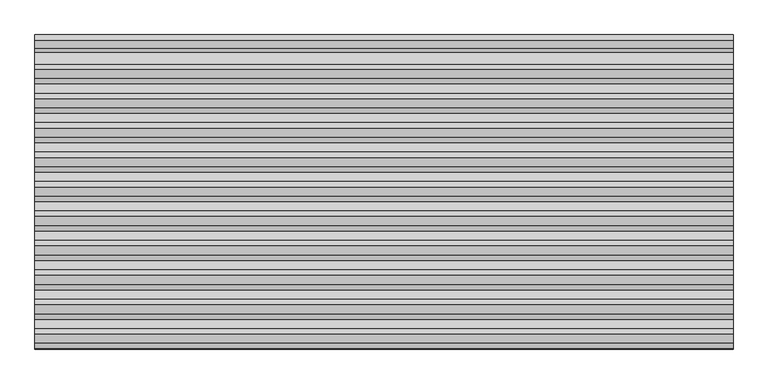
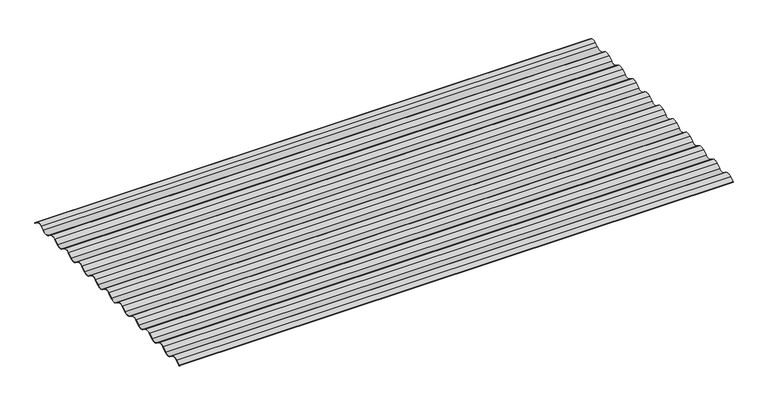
"""IFC4 building model written with IfcOpenShell, lengths in millimetres: beam geometry, 3D_Metalcraft Corrugate : Corrugate."""

import ifcopenshell
import ifcopenshell.guid

model = None  # the IFC model being written
_history = None  # IfcOwnerHistory: only IFC2X3 demands one
_inside = {}  # id of a spatial element -> (the spatial element, [elements in it])
_under = {}  # id of a project, library or spatial element -> (it, [spatial elements below it])
_declared = {}  # id of a project -> (the project, [libraries it declares])
_typed = {}  # id of a type object -> (the type object, [elements of that type])
_made_of = {}  # id of a material, layer set ... -> (it, [elements and type objects made of it])


def new_model(schema):
    """Start an empty IFC model of exactly this schema.

    Asked for "IFC4X3", IfcOpenShell would pick the latest addendum, in which some entities
    have other attributes; the version numbers below select the first issue.
    IFC2X3 requires an IfcOwnerHistory on every rooted entity: one is made here for all.
    """
    global model, _history
    if schema == "IFC4X3":
        model = ifcopenshell.file(schema_version=(4, 3, 0, 0))
    else:
        model = ifcopenshell.file(schema=schema)
    _inside.clear()
    _under.clear()
    _declared.clear()
    _typed.clear()
    _made_of.clear()
    _history = None
    if model.schema == "IFC2X3":
        org = make("IfcOrganization", Name="unknown")
        user = make(
            "IfcPersonAndOrganization",
            ThePerson=make("IfcPerson", FamilyName="unknown"),
            TheOrganization=org,
        )
        app = make(
            "IfcApplication",
            ApplicationDeveloper=org,
            Version="unknown",
            ApplicationFullName="unknown",
            ApplicationIdentifier="unknown",
        )
        _history = make(
            "IfcOwnerHistory",
            OwningUser=user,
            OwningApplication=app,
            ChangeAction="ADDED",
            CreationDate=0,
        )
    return model


def make(cls, **values):
    """One entity of the class cls with the attributes given. An attribute that is None is left unset."""
    return model.create_entity(
        cls, **{name: value for name, value in values.items() if value is not None}
    )


def rooted(cls, **values):
    """An entity with a GlobalId (a new one), such as an element, a storey or a relation."""
    return make(cls, GlobalId=ifcopenshell.guid.new(), OwnerHistory=_history, **values)


def si_unit(unit_type, name, prefix=None):
    """IfcSIUnit, for example si_unit("LENGTHUNIT", "METRE", prefix="MILLI")."""
    return make("IfcSIUnit", UnitType=unit_type, Prefix=prefix, Name=name)


def assignment(units):
    """IfcUnitAssignment: the units of a project."""
    return None if units is None else make("IfcUnitAssignment", Units=units)


def point(xyz):
    """IfcCartesianPoint."""
    return None if xyz is None else make("IfcCartesianPoint", Coordinates=xyz)


def direction(xyz):
    """IfcDirection."""
    return None if xyz is None else make("IfcDirection", DirectionRatios=xyz)


def frame(location, z_axis=None, x_axis=None):
    """IfcAxis2Placement3D, a coordinate frame: its origin and axes. An axis left out is left unset."""
    return make(
        "IfcAxis2Placement3D",
        Location=point(location),
        Axis=direction(z_axis),
        RefDirection=direction(x_axis),
    )


def frame_2d(location, x_axis=None):
    """IfcAxis2Placement2D, a coordinate frame in the plane: its origin and x axis."""
    return make(
        "IfcAxis2Placement2D", Location=point(location), RefDirection=direction(x_axis)
    )


def origin():
    """The frame at (0, 0, 0) with its axes left unset."""
    return frame((0.0, 0.0, 0.0))


def place(relative_to, where):
    """IfcLocalPlacement: puts the frame where relative to a parent placement (None: the world)."""
    return make(
        "IfcLocalPlacement", PlacementRelTo=relative_to, RelativePlacement=where
    )


def context(
    kind, dimensions, precision=None, world=None, true_north=None, identifier=None
):
    """IfcGeometricRepresentationContext, for example the 3D "Model" context."""
    return make(
        "IfcGeometricRepresentationContext",
        ContextIdentifier=identifier,
        ContextType=kind,
        CoordinateSpaceDimension=dimensions,
        Precision=precision,
        WorldCoordinateSystem=world,
        TrueNorth=true_north,
    )


def project(units=None, contexts=None):
    """IfcProject with its units and contexts."""
    return rooted(
        "IfcProject",
        Name="project",
        RepresentationContexts=contexts,
        UnitsInContext=assignment(units),
    )


def spatial(cls, under=None, at=None, **own):
    """A site, building, storey or space (cls), placed at a placement, below another one or the project."""
    s = rooted(cls, ObjectPlacement=at, **own)
    if under is not None:
        _under.setdefault(under.id(), (under, []))[1].append(s)
    return s


def polyline(points):
    """IfcPolyline through the points."""
    return make("IfcPolyline", Points=[point(p) for p in points])


def circle_curve(where, radius):
    """IfcCircle in the frame where."""
    return make("IfcCircle", Position=where, Radius=radius)


def trimmed(basis, trim1, trim2, sense, master):
    """IfcTrimmedCurve: the piece of a basis curve between two trims."""
    return make(
        "IfcTrimmedCurve",
        BasisCurve=basis,
        Trim1=trim1,
        Trim2=trim2,
        SenseAgreement=sense,
        MasterRepresentation=master,
    )


def segment(curve, same_sense, transition):
    """IfcCompositeCurveSegment."""
    return make(
        "IfcCompositeCurveSegment",
        Transition=transition,
        SameSense=same_sense,
        ParentCurve=curve,
    )


def composite_curve(segments, self_intersect=None):
    """IfcCompositeCurve: segments joined end to end."""
    return make("IfcCompositeCurve", Segments=segments, SelfIntersect=self_intersect)


def outline(outer, holes=None, kind="AREA"):
    """IfcArbitraryClosedProfileDef: a profile drawn as a closed curve; with holes, ...WithVoids."""
    if holes is None:
        return make("IfcArbitraryClosedProfileDef", ProfileType=kind, OuterCurve=outer)
    return make(
        "IfcArbitraryProfileDefWithVoids",
        ProfileType=kind,
        OuterCurve=outer,
        InnerCurves=holes,
    )


def extrude(swept, where, along, depth):
    """IfcExtrudedAreaSolid: the profile swept, set in the frame where, extruded along a direction by depth."""
    return make(
        "IfcExtrudedAreaSolid",
        SweptArea=swept,
        Position=where,
        ExtrudedDirection=direction(along),
        Depth=depth,
    )


def shape(context_of_items, identifier, shape_type, items):
    """IfcShapeRepresentation: the items that make up one representation, for example the "Body"."""
    return make(
        "IfcShapeRepresentation",
        ContextOfItems=context_of_items,
        RepresentationIdentifier=identifier,
        RepresentationType=shape_type,
        Items=items,
    )


def source(mapping_origin, context_of_items, identifier, shape_type, items):
    """IfcRepresentationMap: a shape defined once, which mapped items show again and again."""
    return make(
        "IfcRepresentationMap",
        MappingOrigin=mapping_origin,
        MappedRepresentation=shape(context_of_items, identifier, shape_type, items),
    )


def transform(
    local_origin,
    x_axis=None,
    y_axis=None,
    z_axis=None,
    scale=None,
    scale2=None,
    scale3=None,
    uniform=True,
):
    """IfcCartesianTransformationOperator3D, or its non-uniform kind. x_axis, y_axis, z_axis: its Axis1, 2, 3."""
    if uniform:
        return make(
            "IfcCartesianTransformationOperator3D",
            Axis1=direction(x_axis),
            Axis2=direction(y_axis),
            LocalOrigin=point(local_origin),
            Scale=scale,
            Axis3=direction(z_axis),
        )
    return make(
        "IfcCartesianTransformationOperator3DnonUniform",
        Axis1=direction(x_axis),
        Axis2=direction(y_axis),
        LocalOrigin=point(local_origin),
        Scale=scale,
        Axis3=direction(z_axis),
        Scale2=scale2,
        Scale3=scale3,
    )


def mapped(mapping_source, mapping_target):
    """IfcMappedItem: shows the shape of a source again, moved by a transform."""
    return make(
        "IfcMappedItem", MappingSource=mapping_source, MappingTarget=mapping_target
    )


def made_of(thing, what):
    """Note that an element or type object is made of a material, layer set ...; save() writes the relation."""
    if what is not None:
        _made_of.setdefault(what.id(), (what, []))[1].append(thing)
    return thing


def element(
    cls,
    number,
    at=None,
    inside=None,
    cuts=None,
    type_object=None,
    material=None,
    context=None,
    identifier="Body",
    shape_type=None,
    held_by="IfcProductDefinitionShape",
    body=None,
    shapes=None,
    **own,
):
    """One element of the class cls, such as IfcWall. Its Tag is "e" and its number.

    at: its placement. inside: the storey or other place that contains it. cuts: it is an
    opening in that element (IfcRelVoidsElement). A single representation is given by context,
    identifier, shape_type and body (its items); several are given by shapes. held_by: the class
    of the entity that holds the representations. save() writes the other relations.
    """
    e = rooted(cls, Tag="e%d" % number, ObjectPlacement=at, **own)
    if body is not None:
        shapes = [shape(context, identifier, shape_type, body)]
    if shapes is not None:
        e.Representation = make(held_by, Representations=shapes)
    if inside is not None:
        _inside.setdefault(inside.id(), (inside, []))[1].append(e)
    if cuts is not None:
        rooted(
            "IfcRelVoidsElement", RelatingBuildingElement=cuts, RelatedOpeningElement=e
        )
    if type_object is not None:
        _typed.setdefault(type_object.id(), (type_object, []))[1].append(e)
    return made_of(e, material)


def aggregate(whole, parts):
    """IfcRelAggregates: a whole, such as a stair, and the parts it consists of."""
    return rooted("IfcRelAggregates", RelatingObject=whole, RelatedObjects=parts)


def save(model, path):
    """Write the relations noted so far, then the file.

    IfcRelAggregates (storeys below a building ...), IfcRelContainedInSpatialStructure (elements
    in a storey), IfcRelDefinesByType, IfcRelAssociatesMaterial and IfcRelDeclares: one each for
    every whole, place, type object, material and project.
    """
    for whole, parts in _under.values():
        aggregate(whole, parts)
    for where, things in _inside.values():
        rooted(
            "IfcRelContainedInSpatialStructure",
            RelatedElements=things,
            RelatingStructure=where,
        )
    for kind, things in _typed.values():
        rooted("IfcRelDefinesByType", RelatedObjects=things, RelatingType=kind)
    for what, things in _made_of.values():
        rooted("IfcRelAssociatesMaterial", RelatedObjects=things, RelatingMaterial=what)
    for by, libraries in _declared.values():
        rooted("IfcRelDeclares", RelatingContext=by, RelatedDefinitions=libraries)
    model.write(path)


def beam_4e474429(model_context):
    return source(origin(), model_context, "Body", "SweptSolid", [
        extrude(outline(composite_curve([segment(trimmed(circle_curve(frame_2d((-114.0, -3.7896475)), 22.0), [point((-101.5070748, -21.8983973))], [point((-126.4929252, -21.8983973))], False, "CARTESIAN"), True, "CONTINUOUS"), segment(polyline([(-126.4929252, -21.8983973), (-140.8417071, -11.9994114)]), True, "CONTINUOUS"), segment(trimmed(circle_curve(frame_2d((-152.0, -29.7896475)), 21.0), [point((-140.8417071, -11.9994114))], [point((-163.1582929, -11.9994114))], True, "CARTESIAN"), True, "CONTINUOUS"), segment(polyline([(-163.1582929, -11.9994114), (-177.5070748, -21.8983973)]), True, "CONTINUOUS"), segment(trimmed(circle_curve(frame_2d((-190.0, -3.7896475)), 22.0), [point((-177.5070748, -21.8983973))], [point((-202.4929252, -21.8983973))], False, "CARTESIAN"), True, "CONTINUOUS"), segment(polyline([(-202.4929252, -21.8983973), (-216.8417071, -11.9994114)]), True, "CONTINUOUS"), segment(trimmed(circle_curve(frame_2d((-228.0, -29.7896475)), 21.0), [point((-216.8417071, -11.9994114))], [point((-239.1582929, -11.9994114))], True, "CARTESIAN"), True, "CONTINUOUS"), segment(polyline([(-239.1582929, -11.9994114), (-253.5070748, -21.8983973)]), True, "CONTINUOUS"), segment(trimmed(circle_curve(frame_2d((-266.0, -3.7896475)), 22.0), [point((-253.5070748, -21.8983973))], [point((-278.4929252, -21.8983973))], False, "CARTESIAN"), True, "CONTINUOUS"), segment(polyline([(-278.4929252, -21.8983973), (-292.8417071, -11.9994114)]), True, "CONTINUOUS"), segment(trimmed(circle_curve(frame_2d((-304.0, -29.7896475)), 21.0), [point((-292.8417071, -11.9994114))], [point((-315.1582929, -11.9994114))], True, "CARTESIAN"), True, "CONTINUOUS"), segment(polyline([(-315.1582929, -11.9994114), (-329.5070748, -21.8983973)]), True, "CONTINUOUS"), segment(trimmed(circle_curve(frame_2d((-342.0, -3.7896475)), 22.0), [point((-329.5070748, -21.8983973))], [point((-354.4929252, -21.8983973))], False, "CARTESIAN"), True, "CONTINUOUS"), segment(polyline([(-354.4929252, -21.8983973), (-368.8417071, -11.9994114)]), True, "CONTINUOUS"), segment(trimmed(circle_curve(frame_2d((-380.0, -29.7896475)), 21.0), [point((-368.8417071, -11.9994114))], [point((-391.1582929, -11.9994114))], True, "CARTESIAN"), True, "CONTINUOUS"), segment(polyline([(-391.1582929, -11.9994114), (-405.5070748, -21.8983973)]), True, "CONTINUOUS"), segment(trimmed(circle_curve(frame_2d((-418.0, -3.7896475)), 22.0), [point((-405.5070748, -21.8983973))], [point((-430.4929252, -21.8983973))], False, "CARTESIAN"), True, "CONTINUOUS"), segment(polyline([(-430.4929252, -21.8983973), (-444.8417071, -11.9994114)]), True, "CONTINUOUS"), segment(trimmed(circle_curve(frame_2d((-456.0, -29.7896475)), 21.0), [point((-444.8417071, -11.9994114))], [point((-467.1582929, -11.9994114))], True, "CARTESIAN"), True, "CONTINUOUS"), segment(polyline([(-467.1582929, -11.9994114), (-481.5070748, -21.8983973)]), True, "CONTINUOUS"), segment(trimmed(circle_curve(frame_2d((-494.0, -3.7896475)), 22.0), [point((-481.5070748, -21.8983973))], [point((-506.4929252, -21.8983973))], False, "CARTESIAN"), True, "CONTINUOUS"), segment(polyline([(-506.4929252, -21.8983973), (-520.8417071, -11.9994114)]), True, "CONTINUOUS"), segment(trimmed(circle_curve(frame_2d((-532.0, -29.7896475)), 21.0), [point((-520.8417071, -11.9994114))], [point((-543.1582929, -11.9994114))], True, "CARTESIAN"), True, "CONTINUOUS"), segment(polyline([(-543.1582929, -11.9994114), (-557.5070748, -21.8983973)]), True, "CONTINUOUS"), segment(trimmed(circle_curve(frame_2d((-570.0, -3.7896475)), 22.0), [point((-557.5070748, -21.8983973))], [point((-582.4929252, -21.8983973))], False, "CARTESIAN"), True, "CONTINUOUS"), segment(polyline([(-582.4929252, -21.8983973), (-596.8417071, -11.9994114)]), True, "CONTINUOUS"), segment(trimmed(circle_curve(frame_2d((-608.0, -29.7896475)), 21.0), [point((-596.8417071, -11.9994114))], [point((-619.1582929, -11.9994114))], True, "CARTESIAN"), True, "CONTINUOUS"), segment(polyline([(-619.1582929, -11.9994114), (-633.5070748, -21.8983973)]), True, "CONTINUOUS"), segment(trimmed(circle_curve(frame_2d((-646.0, -3.7896475)), 22.0), [point((-633.5070748, -21.8983973))], [point((-658.4929252, -21.8983973))], False, "CARTESIAN"), True, "CONTINUOUS"), segment(polyline([(-658.4929252, -21.8983973), (-672.8417071, -11.9994114)]), True, "CONTINUOUS"), segment(trimmed(circle_curve(frame_2d((-684.0, -29.7896475)), 21.0), [point((-672.8417071, -11.9994114))], [point((-695.1582929, -11.9994114))], True, "CARTESIAN"), True, "CONTINUOUS"), segment(polyline([(-695.1582929, -11.9994114), (-709.5070748, -21.8983973)]), True, "CONTINUOUS"), segment(trimmed(circle_curve(frame_2d((-722.0, -3.7896475)), 22.0), [point((-709.5070748, -21.8983973))], [point((-734.4929252, -21.8983973))], False, "CARTESIAN"), True, "CONTINUOUS"), segment(polyline([(-734.4929252, -21.8983973), (-748.8417071, -11.9994114)]), True, "CONTINUOUS"), segment(trimmed(circle_curve(frame_2d((-760.0, -29.7896475)), 21.0), [point((-748.8417071, -11.9994114))], [point((-771.1582929, -11.9994114))], True, "CARTESIAN"), True, "CONTINUOUS"), segment(polyline([(-771.1582929, -11.9994114), (-785.1206351, -21.631799)]), True, "CONTINUOUS"), segment(trimmed(circle_curve(frame_2d((-785.4045652, -21.2202365)), 0.5), [point((-785.1206351, -21.631799))], [point((-785.6884953, -20.808674))], False, "CARTESIAN"), True, "CONTINUOUS"), segment(polyline([(-785.6884953, -20.808674), (-771.7083687, -11.1640172)]), True, "CONTINUOUS"), segment(trimmed(circle_curve(frame_2d((-760.0, -29.7896475)), 22.0), [point((-771.7083687, -11.1640172))], [point((-748.2916313, -11.1640172))], False, "CARTESIAN"), True, "CONTINUOUS"), segment(polyline([(-748.2916313, -11.1640172), (-733.925065, -21.0752723)]), True, "CONTINUOUS"), segment(trimmed(circle_curve(frame_2d((-722.0, -3.7896475)), 21.0), [point((-733.925065, -21.0752723))], [point((-710.074935, -21.0752723))], True, "CARTESIAN"), True, "CONTINUOUS"), segment(polyline([(-710.074935, -21.0752723), (-695.7083687, -11.1640172)]), True, "CONTINUOUS"), segment(trimmed(circle_curve(frame_2d((-684.0, -29.7896475)), 22.0), [point((-695.7083687, -11.1640172))], [point((-672.2916313, -11.1640172))], False, "CARTESIAN"), True, "CONTINUOUS"), segment(polyline([(-672.2916313, -11.1640172), (-657.925065, -21.0752723)]), True, "CONTINUOUS"), segment(trimmed(circle_curve(frame_2d((-646.0, -3.7896475)), 21.0), [point((-657.925065, -21.0752723))], [point((-634.074935, -21.0752723))], True, "CARTESIAN"), True, "CONTINUOUS"), segment(polyline([(-634.074935, -21.0752723), (-619.7083687, -11.1640172)]), True, "CONTINUOUS"), segment(trimmed(circle_curve(frame_2d((-608.0, -29.7896475)), 22.0), [point((-619.7083687, -11.1640172))], [point((-596.2916313, -11.1640172))], False, "CARTESIAN"), True, "CONTINUOUS"), segment(polyline([(-596.2916313, -11.1640172), (-581.925065, -21.0752723)]), True, "CONTINUOUS"), segment(trimmed(circle_curve(frame_2d((-570.0, -3.7896475)), 21.0), [point((-581.925065, -21.0752723))], [point((-558.074935, -21.0752723))], True, "CARTESIAN"), True, "CONTINUOUS"), segment(polyline([(-558.074935, -21.0752723), (-543.7083687, -11.1640172)]), True, "CONTINUOUS"), segment(trimmed(circle_curve(frame_2d((-532.0, -29.7896475)), 22.0), [point((-543.7083687, -11.1640172))], [point((-520.2916313, -11.1640172))], False, "CARTESIAN"), True, "CONTINUOUS"), segment(polyline([(-520.2916313, -11.1640172), (-505.925065, -21.0752723)]), True, "CONTINUOUS"), segment(trimmed(circle_curve(frame_2d((-494.0, -3.7896475)), 21.0), [point((-505.925065, -21.0752723))], [point((-482.074935, -21.0752723))], True, "CARTESIAN"), True, "CONTINUOUS"), segment(polyline([(-482.074935, -21.0752723), (-467.7083687, -11.1640172)]), True, "CONTINUOUS"), segment(trimmed(circle_curve(frame_2d((-456.0, -29.7896475)), 22.0), [point((-467.7083687, -11.1640172))], [point((-444.2916313, -11.1640172))], False, "CARTESIAN"), True, "CONTINUOUS"), segment(polyline([(-444.2916313, -11.1640172), (-429.925065, -21.0752723)]), True, "CONTINUOUS"), segment(trimmed(circle_curve(frame_2d((-418.0, -3.7896475)), 21.0), [point((-429.925065, -21.0752723))], [point((-406.074935, -21.0752723))], True, "CARTESIAN"), True, "CONTINUOUS"), segment(polyline([(-406.074935, -21.0752723), (-391.7083687, -11.1640172)]), True, "CONTINUOUS"), segment(trimmed(circle_curve(frame_2d((-380.0, -29.7896475)), 22.0), [point((-391.7083687, -11.1640172))], [point((-368.2916313, -11.1640172))], False, "CARTESIAN"), True, "CONTINUOUS"), segment(polyline([(-368.2916313, -11.1640172), (-353.925065, -21.0752723)]), True, "CONTINUOUS"), segment(trimmed(circle_curve(frame_2d((-342.0, -3.7896475)), 21.0), [point((-353.925065, -21.0752723))], [point((-330.074935, -21.0752723))], True, "CARTESIAN"), True, "CONTINUOUS"), segment(polyline([(-330.074935, -21.0752723), (-315.7083687, -11.1640172)]), True, "CONTINUOUS"), segment(trimmed(circle_curve(frame_2d((-304.0, -29.7896475)), 22.0), [point((-315.7083687, -11.1640172))], [point((-292.2916313, -11.1640172))], False, "CARTESIAN"), True, "CONTINUOUS"), segment(polyline([(-292.2916313, -11.1640172), (-277.925065, -21.0752723)]), True, "CONTINUOUS"), segment(trimmed(circle_curve(frame_2d((-266.0, -3.7896475)), 21.0), [point((-277.925065, -21.0752723))], [point((-254.074935, -21.0752723))], True, "CARTESIAN"), True, "CONTINUOUS"), segment(polyline([(-254.074935, -21.0752723), (-239.7083687, -11.1640172)]), True, "CONTINUOUS"), segment(trimmed(circle_curve(frame_2d((-228.0, -29.7896475)), 22.0), [point((-239.7083687, -11.1640172))], [point((-216.2916313, -11.1640172))], False, "CARTESIAN"), True, "CONTINUOUS"), segment(polyline([(-216.2916313, -11.1640172), (-201.925065, -21.0752723)]), True, "CONTINUOUS"), segment(trimmed(circle_curve(frame_2d((-190.0, -3.7896475)), 21.0), [point((-201.925065, -21.0752723))], [point((-178.074935, -21.0752723))], True, "CARTESIAN"), True, "CONTINUOUS"), segment(polyline([(-178.074935, -21.0752723), (-163.7083687, -11.1640172)]), True, "CONTINUOUS"), segment(trimmed(circle_curve(frame_2d((-152.0, -29.7896475)), 22.0), [point((-163.7083687, -11.1640172))], [point((-140.2916313, -11.1640172))], False, "CARTESIAN"), True, "CONTINUOUS"), segment(polyline([(-140.2916313, -11.1640172), (-125.925065, -21.0752723)]), True, "CONTINUOUS"), segment(trimmed(circle_curve(frame_2d((-114.0, -3.7896475)), 21.0), [point((-125.925065, -21.0752723))], [point((-102.074935, -21.0752723))], True, "CARTESIAN"), True, "CONTINUOUS"), segment(polyline([(-102.074935, -21.0752723), (-87.7083687, -11.1640172)]), True, "CONTINUOUS"), segment(trimmed(circle_curve(frame_2d((-76.0, -29.7896475)), 22.0), [point((-87.7083687, -11.1640172))], [point((-64.2916313, -11.1640172))], False, "CARTESIAN"), True, "CONTINUOUS"), segment(polyline([(-64.2916313, -11.1640172), (-51.2411976, -20.1672943)]), True, "CONTINUOUS"), segment(trimmed(circle_curve(frame_2d((-36.2390033, 1.8579031)), 26.6491117), [point((-51.2411976, -20.1672943))], [point((-21.236809, -20.1672943))], True, "CARTESIAN"), True, "CONTINUOUS"), segment(polyline([(-21.236809, -20.1672943), (-10.6086461, -12.8351015)]), True, "CONTINUOUS"), segment(trimmed(circle_curve(frame_2d((0.0, -29.7896475)), 20.0), [point((-10.6086461, -12.8351015))], [point((10.6086461, -12.8351015))], False, "CARTESIAN"), True, "CONTINUOUS"), segment(polyline([(10.6086461, -12.8351015), (24.9392146, -22.7215223)]), True, "CONTINUOUS"), segment(trimmed(circle_curve(frame_2d((24.6552844, -23.1330848)), 0.5), [point((24.9392146, -22.7215223))], [point((24.3713543, -23.5446473))], False, "CARTESIAN"), True, "CONTINUOUS"), segment(polyline([(24.3713543, -23.5446473), (10.0594608, -13.6711101)]), True, "CONTINUOUS"), segment(trimmed(circle_curve(frame_2d((0.0, -29.7896475)), 19.0), [point((10.0594608, -13.6711101))], [point((-10.0594608, -13.6711101))], True, "CARTESIAN"), True, "CONTINUOUS"), segment(polyline([(-10.0594608, -13.6711101), (-20.4055053, -20.808674)]), True, "CONTINUOUS"), segment(trimmed(circle_curve(frame_2d((-36.2390033, 1.8579031)), 27.6491117), [point((-20.4055053, -20.808674))], [point((-51.8066318, -20.992093))], False, "CARTESIAN"), True, "CONTINUOUS"), segment(polyline([(-51.8066318, -20.992093), (-64.8417071, -11.9994114)]), True, "CONTINUOUS"), segment(trimmed(circle_curve(frame_2d((-76.0, -29.7896475)), 21.0), [point((-64.8417071, -11.9994114))], [point((-87.1582929, -11.9994114))], True, "CARTESIAN"), True, "CONTINUOUS"), segment(polyline([(-87.1582929, -11.9994114), (-101.5070748, -21.8983973)]), True, "CONTINUOUS")], self_intersect=False)), frame((-900.0, 0.0, 0.0), z_axis=(1.0, 0.0, 0.0), x_axis=(0.0, 1.0, 0.0)), (0.0, 0.0, 1.0), 1800.0),
    ])


if __name__ == "__main__":
    model = new_model("IFC4")
    model_context = context("Model", 3, world=origin())
    ifc_project = project(units=[si_unit("LENGTHUNIT", "METRE", prefix="MILLI")], contexts=[model_context])
    site = spatial("IfcSite", under=ifc_project)
    building = spatial("IfcBuilding", under=site)
    placement = place(None, origin())
    beam_shape = beam_4e474429(model_context)
    element("IfcBeam", 1, ObjectType="3D_Metalcraft Corrugate : Corrugate", at=placement, inside=building, context=model_context, shape_type="MappedRepresentation", body=[
        mapped(beam_shape, transform((0.0, 0.0, 0.0), x_axis=(1.0, 0.0, 0.0), y_axis=(0.0, 1.0, 0.0), z_axis=(0.0, 0.0, 1.0))),
    ])
    save(model, "model.ifc")
